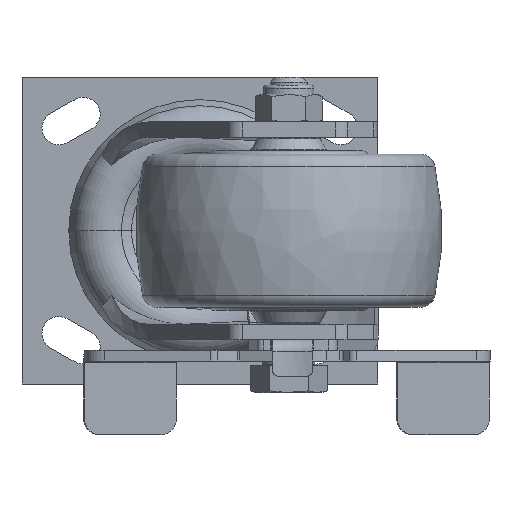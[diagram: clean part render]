
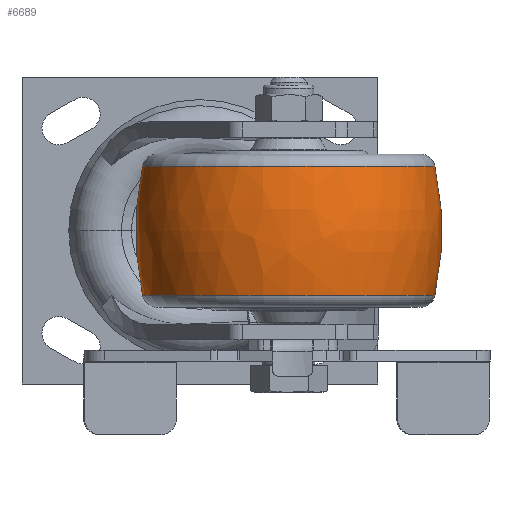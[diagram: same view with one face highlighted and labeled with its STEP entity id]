
A CAD part, front view. The second image highlights one B-rep face of the part: STEP entity #6689.
In plain terms, the highlighted free-form (B-spline) face has degree [3, 3] with [7, 4] control points.
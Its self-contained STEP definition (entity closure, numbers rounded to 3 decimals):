
#5995=CARTESIAN_POINT('',(0.,-50.072,0.));
#5996=DIRECTION('',(0.,0.,1.));
#5997=DIRECTION('',(0.211,0.978,0.));
#5998=AXIS2_PLACEMENT_3D('',#5995,#5996,#5997);
#6000=CARTESIAN_POINT('',(0.,50.072,
0.));
#6001=DIRECTION('',(0.,0.,-1.));
#6002=DIRECTION('',(0.211,-0.978,0.));
#6003=AXIS2_PLACEMENT_3D('',#6000,#6001,#6002);
#6005=CARTESIAN_POINT('',(21.053,0.,0.));
#6006=DIRECTION('',(-1.,0.,0.));
#6007=DIRECTION('',(0.,1.,0.));
#6008=AXIS2_PLACEMENT_3D('',#6005,#6006,#6007);
#6020=CARTESIAN_POINT('',(-21.053,0.,0.));
#6021=DIRECTION('',(-1.,0.,0.));
#6022=DIRECTION('',(0.,1.,0.));
#6023=AXIS2_PLACEMENT_3D('',#6020,#6021,#6022);
#6492=CARTESIAN_POINT('',(21.053,47.687,0.));
#6493=CARTESIAN_POINT('',(-21.053,47.687,0.));
#6494=VERTEX_POINT('',#6492);
#6495=VERTEX_POINT('',#6493);
#6552=CARTESIAN_POINT('',(21.053,-47.687,
0.));
#6553=CARTESIAN_POINT('',(-21.053,-47.687,
0.));
#6554=VERTEX_POINT('',#6552);
#6555=VERTEX_POINT('',#6553);
#6652=CARTESIAN_POINT('',(-21.881,-47.411,
2.983));
#6653=CARTESIAN_POINT('',(-7.414,-50.649,
3.187));
#6654=CARTESIAN_POINT('',(7.414,-50.649,3.187));
#6655=CARTESIAN_POINT('',(21.881,-47.411,2.983));
#6656=CARTESIAN_POINT('',(-21.881,-49.246,
-26.194));
#6657=CARTESIAN_POINT('',(-7.414,-52.61,
-27.983));
#6658=CARTESIAN_POINT('',(7.414,-52.61,
-27.983));
#6659=CARTESIAN_POINT('',(21.881,-49.246,
-26.194));
#6660=CARTESIAN_POINT('',(-21.881,-29.234,
-47.505));
#6661=CARTESIAN_POINT('',(-7.414,-31.231,
-50.749));
#6662=CARTESIAN_POINT('',(7.414,-31.231,
-50.749));
#6663=CARTESIAN_POINT('',(21.881,-29.234,
-47.505));
#6664=CARTESIAN_POINT('',(-21.881,0.,
-47.505));
#6665=CARTESIAN_POINT('',(-7.414,0.,
-50.749));
#6666=CARTESIAN_POINT('',(7.414,0.,
-50.749));
#6667=CARTESIAN_POINT('',(21.881,0.,
-47.505));
#6668=CARTESIAN_POINT('',(-21.881,29.234,
-47.505));
#6669=CARTESIAN_POINT('',(-7.414,31.231,
-50.749));
#6670=CARTESIAN_POINT('',(7.414,31.231,-50.749));
#6671=CARTESIAN_POINT('',(21.881,29.234,-47.505));
#6672=CARTESIAN_POINT('',(-21.881,49.246,
-26.194));
#6673=CARTESIAN_POINT('',(-7.414,52.61,
-27.983));
#6674=CARTESIAN_POINT('',(7.414,52.61,-27.983));
#6675=CARTESIAN_POINT('',(21.881,49.246,-26.194));
#6676=CARTESIAN_POINT('',(-21.881,47.411,2.983));
#6677=CARTESIAN_POINT('',(-7.414,50.649,3.187));
#6678=CARTESIAN_POINT('',(7.414,50.649,3.187));
#6679=CARTESIAN_POINT('',(21.881,47.411,2.983));
#6680=(BOUNDED_SURFACE()B_SPLINE_SURFACE(3,3,((#6652,#6653,#6654,#6655),(#6656,
#6657,#6658,#6659),(#6660,#6661,#6662,#6663),(#6664,#6665,#6666,#6667),(#6668,
#6669,#6670,#6671),(#6672,#6673,#6674,#6675),(#6676,#6677,#6678,#6679)),
.UNSPECIFIED.,.F.,.F.,.F.)B_SPLINE_SURFACE_WITH_KNOTS((4,3,4),(4,4),(0.,1.,
2.),(0.,1.),.UNSPECIFIED.)GEOMETRIC_REPRESENTATION_ITEM()RATIONAL_B_SPLINE_SURFACE(((1.202,1.182,1.182,1.202),(
0.949,0.934,0.934,0.949),(
0.949,0.934,0.934,0.949),(
1.202,1.182,1.182,1.202),(
0.949,0.934,0.934,0.949),(
0.949,0.934,0.934,0.949),(
1.202,1.182,1.182,1.202)))REPRESENTATION_ITEM('')SURFACE());
#6681=ORIENTED_EDGE('',*,*,#6641,.T.);
#6683=ORIENTED_EDGE('',*,*,#6682,.T.);
#6684=ORIENTED_EDGE('',*,*,#6645,.F.);
#6686=ORIENTED_EDGE('',*,*,#6685,.F.);
#6687=EDGE_LOOP('',(#6681,#6683,#6684,#6686));
#6688=FACE_OUTER_BOUND('',#6687,.F.);
#5999=CIRCLE('',#5998,100.);
#6004=CIRCLE('',#6003,100.);
#6009=CIRCLE('',#6008,47.687);
#6024=CIRCLE('',#6023,47.687);
#6641=EDGE_CURVE('',#6494,#6495,#5999,.T.);
#6645=EDGE_CURVE('',#6554,#6555,#6004,.T.);
#6682=EDGE_CURVE('',#6495,#6555,#6024,.T.);
#6685=EDGE_CURVE('',#6494,#6554,#6009,.T.);
#6689=ADVANCED_FACE('',(#6688),#6680,.T.);
